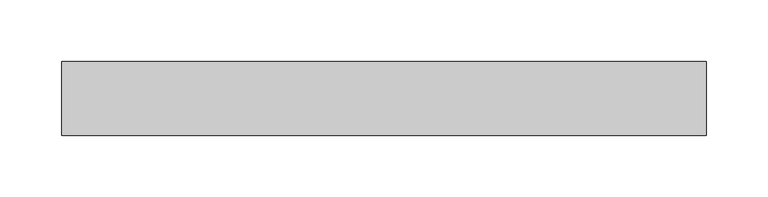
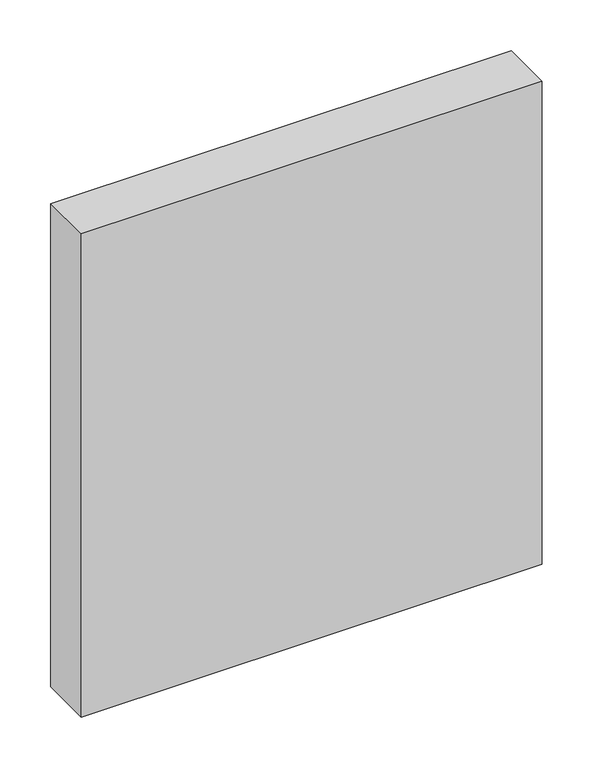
"""IFC4 building model written with IfcOpenShell, lengths in millimetres: plate geometry, Системная панель : Алюкобонд серый."""

from ifc_helpers import new_model, si_unit, origin, origin_with_axes, place, context, project, spatial, polyline, outline, extrude, source, transform, mapped, element, save


def plate_9187fa4a(model_context):
    return source(origin(), model_context, "Body", "SweptSolid", [
        extrude(outline(polyline([(261.6342601, -49.5), (-261.6342601, -49.5), (-261.6342601, 10.5), (261.6342601, 10.5), (261.6342601, -49.5)])), origin_with_axes(), (0.0, 0.0, 1.0), 580.0),
    ])


if __name__ == "__main__":
    model = new_model("IFC4")
    model_context = context("Model", 3, world=origin())
    ifc_project = project(units=[si_unit("LENGTHUNIT", "METRE", prefix="MILLI")], contexts=[model_context])
    site = spatial("IfcSite", under=ifc_project)
    building = spatial("IfcBuilding", under=site)
    placement = place(None, origin())
    plate_shape = plate_9187fa4a(model_context)
    element("IfcPlate", 1, ObjectType="Системная панель : Алюкобонд серый", at=placement, inside=building, context=model_context, shape_type="MappedRepresentation", body=[
        mapped(plate_shape, transform((0.0, 0.0, 0.0), x_axis=(1.0, 0.0, 0.0), y_axis=(0.0, 1.0, 0.0), z_axis=(0.0, 0.0, 1.0))),
    ])
    save(model, "model.ifc")
